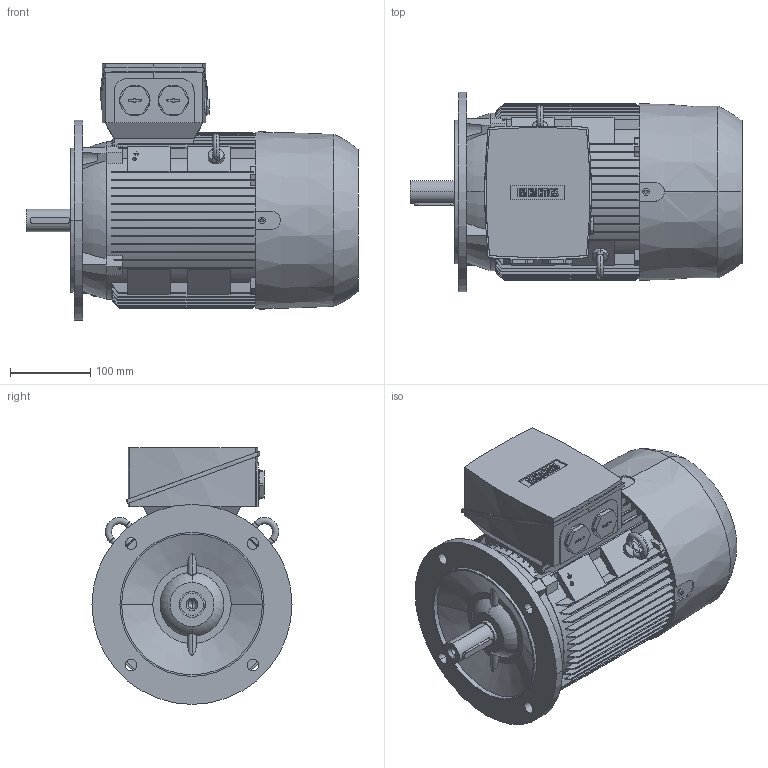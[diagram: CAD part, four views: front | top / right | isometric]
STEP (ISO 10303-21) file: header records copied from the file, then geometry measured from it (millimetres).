
FILE_DESCRIPTION(('STEP AP214'),'1');
FILE_NAME('cctmp_95E7A2D4-6EF7-41C7-9E2E-E460F33C3D3C_2026_04_15_13_37_05_0254_28660..stp','2026-04-15T11:37:05',('KiM GmbH'),('CADClick - www.CADClick.com'),'Spatial InterOp 3D',' ','unknown authorization');
FILE_SCHEMA(('AUTOMOTIVE_DESIGN'));
Length unit declared in the file: millimetre
Products named in the file (1): 2026_04_15_13_37_05_0254
Bounding box: 415 x 250 x 321 mm (x, y, z)
Volume: 13663444.3 mm3; surface area: 639756.9 mm2
Topology: 1 solids, 1 shells, 950 faces, 2624 edges, 1730 vertices
Faces by surface type: plane 562, cylinder 228, torus 130, cone 26, sphere 4
Entity records: 44487 total; most frequent: CARTESIAN_POINT 13071, ORIENTED_EDGE 5244, DIRECTION 4591, EDGE_CURVE 2622, VERTEX_POINT 1730, LINE 1575, VECTOR 1575, AXIS2_PLACEMENT_3D 1508
